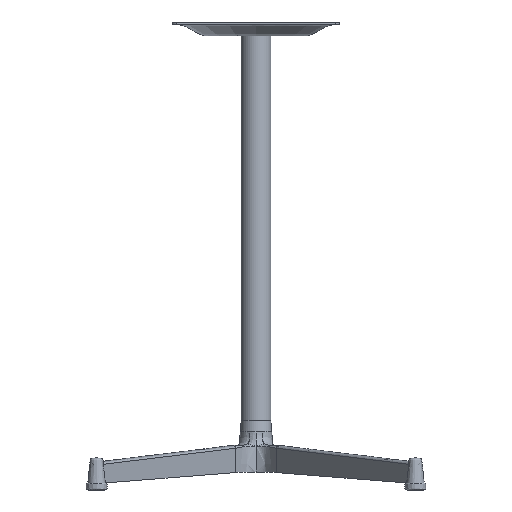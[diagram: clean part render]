
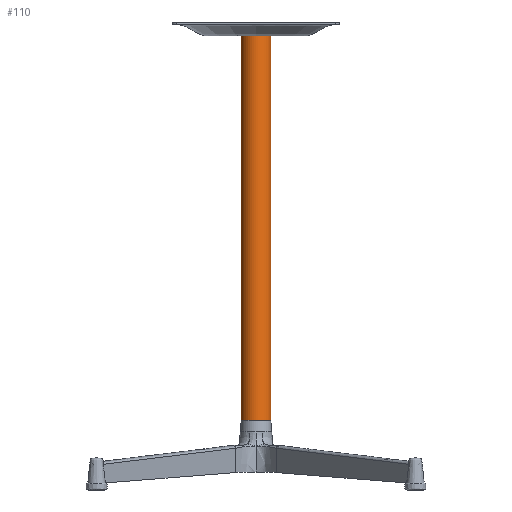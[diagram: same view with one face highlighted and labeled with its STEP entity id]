
A CAD part, left-side view. The second image highlights one B-rep face of the part: STEP entity #110.
In plain terms, the highlighted free-form (B-spline) face has degree [2, 1] with [9, 2] control points.
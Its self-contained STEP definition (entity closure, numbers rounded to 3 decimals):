
#110=ADVANCED_FACE('',(#216),#1492,.T.);
#216=FACE_OUTER_BOUND('',#322,.T.);
#322=EDGE_LOOP('',(#553,#554,#555,#556));
#553=ORIENTED_EDGE('',*,*,#918,.F.);
#554=ORIENTED_EDGE('',*,*,#917,.T.);
#555=ORIENTED_EDGE('',*,*,#918,.T.);
#556=ORIENTED_EDGE('',*,*,#919,.F.);
#917=EDGE_CURVE('',#1371,#1371,#1266,.T.);
#918=EDGE_CURVE('',#1371,#1370,#1267,.T.);
#919=EDGE_CURVE('',#1370,#1370,#1268,.T.);
#1266=(
BOUNDED_CURVE()
B_SPLINE_CURVE(2,(#2363,#2364,#2365,#2366,#2367,#2368,#2369,#2370,#2371),
 .UNSPECIFIED.,.T.,.F.)
B_SPLINE_CURVE_WITH_KNOTS((3,2,2,2,3),(0.,33.536,67.073,
100.609,134.146),.UNSPECIFIED.)
CURVE()
GEOMETRIC_REPRESENTATION_ITEM()
RATIONAL_B_SPLINE_CURVE((1.,0.707,1.,0.707,1.,0.707,
1.,0.707,1.))
REPRESENTATION_ITEM('')
);
#1267=(
BOUNDED_CURVE()
B_SPLINE_CURVE(1,(#2372,#2373),.UNSPECIFIED.,.F.,.F.)
B_SPLINE_CURVE_WITH_KNOTS((2,2),(0.,550.),.UNSPECIFIED.)
CURVE()
GEOMETRIC_REPRESENTATION_ITEM()
RATIONAL_B_SPLINE_CURVE((1.,1.))
REPRESENTATION_ITEM('')
);
#1268=(
BOUNDED_CURVE()
B_SPLINE_CURVE(2,(#2374,#2375,#2376,#2377,#2378,#2379,#2380,#2381,#2382),
 .UNSPECIFIED.,.T.,.F.)
B_SPLINE_CURVE_WITH_KNOTS((3,2,2,2,3),(0.,33.536,67.073,
100.609,134.146),.UNSPECIFIED.)
CURVE()
GEOMETRIC_REPRESENTATION_ITEM()
RATIONAL_B_SPLINE_CURVE((1.,0.707,1.,0.707,1.,0.707,
1.,0.707,1.))
REPRESENTATION_ITEM('')
);
#1370=VERTEX_POINT('',#2361);
#1371=VERTEX_POINT('',#2362);
#1492=(
BOUNDED_SURFACE()
B_SPLINE_SURFACE(2,1,((#2343,#2344),(#2345,#2346),(#2347,#2348),(#2349,
#2350),(#2351,#2352),(#2353,#2354),(#2355,#2356),(#2357,#2358),(#2359,#2360)),
 .UNSPECIFIED.,.T.,.F.,.F.)
B_SPLINE_SURFACE_WITH_KNOTS((3,2,2,2,3),(2,2),(0.,33.536,67.073,
100.609,134.146),(0.,650.),.UNSPECIFIED.)
GEOMETRIC_REPRESENTATION_ITEM()
RATIONAL_B_SPLINE_SURFACE(((1.,1.),(0.707,0.707),
(1.,1.),(0.707,0.707),(1.,1.),(0.707,
0.707),(1.,1.),(0.707,0.707),(1.,1.)))
REPRESENTATION_ITEM('')
SURFACE()
);
#2343=CARTESIAN_POINT('',(21.35,0.,650.));
#2344=CARTESIAN_POINT('',(21.35,0.,0.));
#2345=CARTESIAN_POINT('',(21.35,-21.35,650.));
#2346=CARTESIAN_POINT('',(21.35,-21.35,0.));
#2347=CARTESIAN_POINT('',(0.,-21.35,650.));
#2348=CARTESIAN_POINT('',(0.,-21.35,0.));
#2349=CARTESIAN_POINT('',(-21.35,-21.35,650.));
#2350=CARTESIAN_POINT('',(-21.35,-21.35,0.));
#2351=CARTESIAN_POINT('',(-21.35,0.,650.));
#2352=CARTESIAN_POINT('',(-21.35,0.,0.));
#2353=CARTESIAN_POINT('',(-21.35,21.35,650.));
#2354=CARTESIAN_POINT('',(-21.35,21.35,0.));
#2355=CARTESIAN_POINT('',(0.,21.35,650.));
#2356=CARTESIAN_POINT('',(0.,21.35,0.));
#2357=CARTESIAN_POINT('',(21.35,21.35,650.));
#2358=CARTESIAN_POINT('',(21.35,21.35,0.));
#2359=CARTESIAN_POINT('',(21.35,0.,650.));
#2360=CARTESIAN_POINT('',(21.35,0.,0.));
#2361=CARTESIAN_POINT('',(21.35,0.,100.));
#2362=CARTESIAN_POINT('',(21.35,0.,650.));
#2363=CARTESIAN_POINT('',(21.35,0.,650.));
#2364=CARTESIAN_POINT('',(21.35,-21.35,650.));
#2365=CARTESIAN_POINT('',(0.,-21.35,650.));
#2366=CARTESIAN_POINT('',(-21.35,-21.35,650.));
#2367=CARTESIAN_POINT('',(-21.35,0.,650.));
#2368=CARTESIAN_POINT('',(-21.35,21.35,650.));
#2369=CARTESIAN_POINT('',(0.,21.35,650.));
#2370=CARTESIAN_POINT('',(21.35,21.35,650.));
#2371=CARTESIAN_POINT('',(21.35,0.,650.));
#2372=CARTESIAN_POINT('',(21.35,0.,650.));
#2373=CARTESIAN_POINT('',(21.35,0.,100.));
#2374=CARTESIAN_POINT('',(21.35,0.,100.));
#2375=CARTESIAN_POINT('',(21.35,-21.35,100.));
#2376=CARTESIAN_POINT('',(0.,-21.35,100.));
#2377=CARTESIAN_POINT('',(-21.35,-21.35,100.));
#2378=CARTESIAN_POINT('',(-21.35,0.,100.));
#2379=CARTESIAN_POINT('',(-21.35,21.35,100.));
#2380=CARTESIAN_POINT('',(0.,21.35,100.));
#2381=CARTESIAN_POINT('',(21.35,21.35,100.));
#2382=CARTESIAN_POINT('',(21.35,0.,100.));
